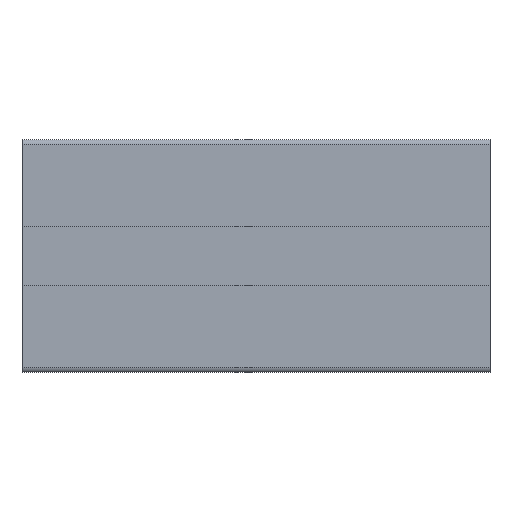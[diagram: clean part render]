
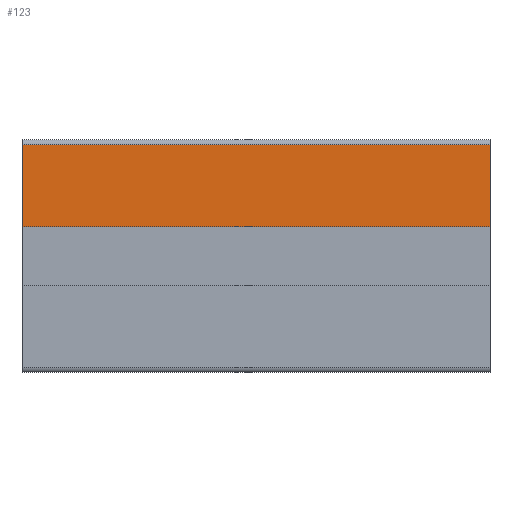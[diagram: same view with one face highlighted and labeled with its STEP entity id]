
A CAD part, front view. The second image highlights one B-rep face of the part: STEP entity #123.
In plain terms, the highlighted planar face has unit normal (0, -1, 0).
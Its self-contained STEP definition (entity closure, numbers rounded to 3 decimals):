
#121 = ORIENTED_EDGE ( 'NONE', *, *, #162, .T. ) ;
#122 = EDGE_CURVE ( 'NONE', #203, #204, #814, .T. ) ;
#123 = ADVANCED_FACE ( 'NONE', ( #748 ), #760, .F. ) ;
#124 = ORIENTED_EDGE ( 'NONE', *, *, #202, .T. ) ;
#125 = ORIENTED_EDGE ( 'NONE', *, *, #122, .F. ) ;
#126 = EDGE_CURVE ( 'NONE', #159, #203, #755, .T. ) ;
#128 = ORIENTED_EDGE ( 'NONE', *, *, #126, .F. ) ;
#157 = EDGE_LOOP ( 'NONE', ( #124, #125, #128, #121 ) ) ;
#159 = VERTEX_POINT ( 'NONE', #695 ) ;
#162 = EDGE_CURVE ( 'NONE', #159, #172, #875, .T. ) ;
#172 = VERTEX_POINT ( 'NONE', #858 ) ;
#202 = EDGE_CURVE ( 'NONE', #172, #204, #1073, .T. ) ;
#203 = VERTEX_POINT ( 'NONE', #1071 ) ;
#204 = VERTEX_POINT ( 'NONE', #1005 ) ;
#695 = CARTESIAN_POINT ( 'NONE',  ( 88.42, -12., 21. ) ) ;
#748 = FACE_OUTER_BOUND ( 'NONE', #157, .T. ) ;
#754 = CARTESIAN_POINT ( 'NONE',  ( 88.42, -12., 21. ) ) ;
#755 = LINE ( 'NONE', #754, #836 ) ;
#760 = PLANE ( 'NONE',  #810 ) ;
#765 = CARTESIAN_POINT ( 'NONE',  ( 88.42, -12., 21. ) ) ;
#810 = AXIS2_PLACEMENT_3D ( 'NONE', #765, #839, #838 ) ;
#811 = DIRECTION ( 'NONE',  ( -1., 0., 0. ) ) ;
#812 = VECTOR ( 'NONE', #811, 1000. ) ;
#813 = CARTESIAN_POINT ( 'NONE',  ( 88.42, -12., 5.5 ) ) ;
#814 = LINE ( 'NONE', #813, #812 ) ;
#835 = DIRECTION ( 'NONE',  ( 0., 0., -1. ) ) ;
#836 = VECTOR ( 'NONE', #835, 1000. ) ;
#838 = DIRECTION ( 'NONE',  ( 0., 0., 1. ) ) ;
#839 = DIRECTION ( 'NONE',  ( 0., 1., 0. ) ) ;
#841 = CARTESIAN_POINT ( 'NONE',  ( 88.42, -12., 21. ) ) ;
#858 = CARTESIAN_POINT ( 'NONE',  ( 0., -12., 21. ) ) ;
#872 = VECTOR ( 'NONE', #874, 1000. ) ;
#874 = DIRECTION ( 'NONE',  ( -1., 0., 0. ) ) ;
#875 = LINE ( 'NONE', #841, #872 ) ;
#1005 = CARTESIAN_POINT ( 'NONE',  ( 0., -12., 5.5 ) ) ;
#1068 = DIRECTION ( 'NONE',  ( 0., 0., -1. ) ) ;
#1069 = VECTOR ( 'NONE', #1068, 1000. ) ;
#1070 = CARTESIAN_POINT ( 'NONE',  ( 0., -12., 21. ) ) ;
#1071 = CARTESIAN_POINT ( 'NONE',  ( 88.42, -12., 5.5 ) ) ;
#1073 = LINE ( 'NONE', #1070, #1069 ) ;
